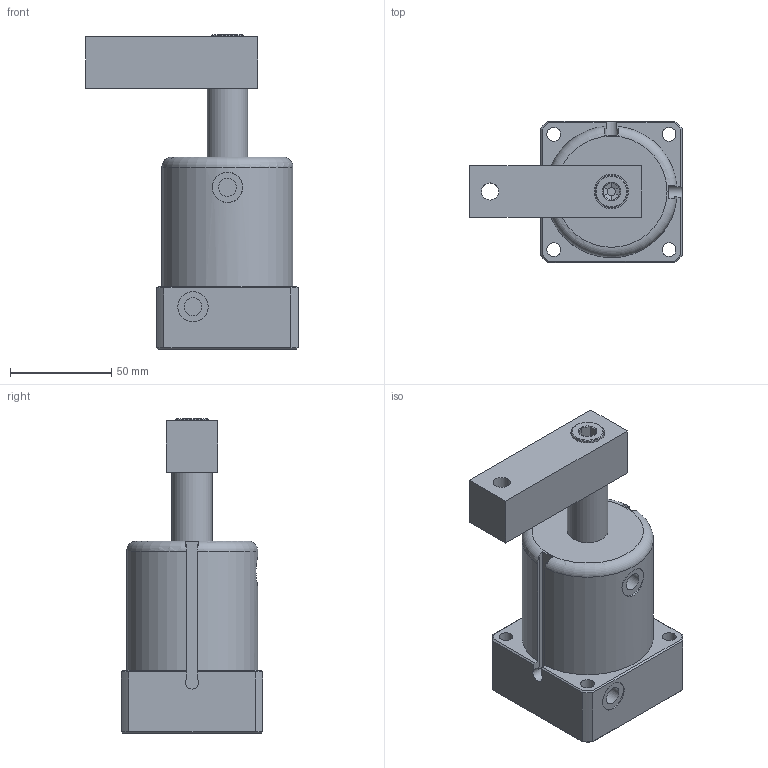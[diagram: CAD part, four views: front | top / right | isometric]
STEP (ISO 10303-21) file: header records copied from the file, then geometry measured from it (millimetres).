
FILE_DESCRIPTION(/* description */ ('Unknown'),/* implementation_level */ '2;1');
FILE_NAME(/* name */ 'ASC-MS50S-A',/* time_stamp */ '2019-05-24T15:48:36+08:00',/* author */ ('Unknown'),/* organization */ ('Unknown'),/* preprocessor_version */ 'ST-DEVELOPER v16.7',/* originating_system */ 'DEX',/* authorisation */ $);
FILE_SCHEMA (('AUTOMOTIVE_DESIGN {1 0 10303 214 3 1 1}'));
Length unit declared in the file: millimetre
Products named in the file (5): ASC-MS50S-A; ASC-MS50S-CYLINDER; ASC-5002-S-AXLE CENTRE; ASC-50S-A; ASC-5002-S-THREAD
Assembly tree (4 placements, depth 2):
  ASC-MS50S-A
    ASC-MS50S-CYLINDER
    ASC-5002-S-AXLE CENTRE
    ASC-50S-A
    ASC-5002-S-THREAD
Bounding box: 105 x 70 x 155.4 mm (x, y, z)
Volume: 354038.6 mm3; surface area: 73015 mm2
Topology: 4 solids, 4 shells, 137 faces, 300 edges, 187 vertices
Faces by surface type: plane 73, cylinder 30, cone 24, bspline 6, torus 4
Full cylindrical faces by diameter (mm): 4.1 x2, 6.8 x4, 8.5 x1, 8.8 x2, 10 x2, 11 x1, 15 x2, 16 x1, 17 x1, 20 x2, 50 x2
Entity records: 4726 total; most frequent: CARTESIAN_POINT 844, DIRECTION 584, ORIENTED_EDGE 520, EDGE_CURVE 260, AXIS2_PLACEMENT_3D 238, EDGE_LOOP 199, FACE_BOUND 199, VERTEX_POINT 181
